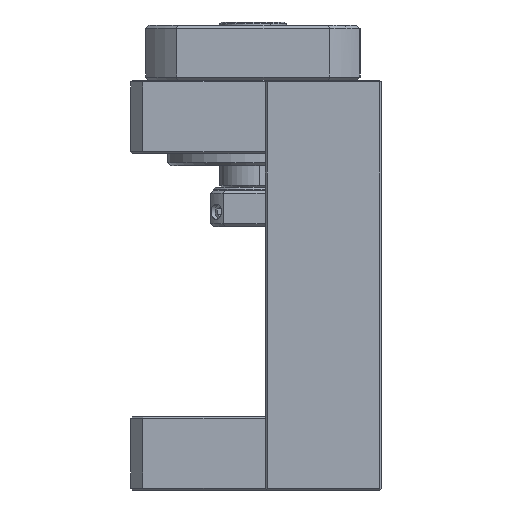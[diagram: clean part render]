
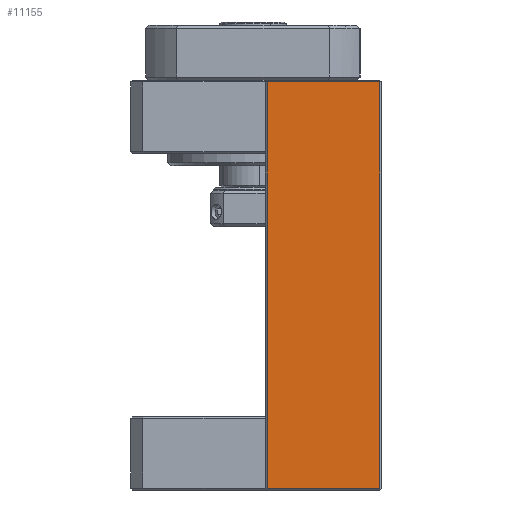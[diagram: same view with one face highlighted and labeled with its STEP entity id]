
A CAD part, left-side view. The second image highlights one B-rep face of the part: STEP entity #11155.
In plain terms, the highlighted planar face has unit normal (-1, 0, 0).
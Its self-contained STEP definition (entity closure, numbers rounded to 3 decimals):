
#3790 = CARTESIAN_POINT ( 'NONE',  ( 0., 0.3, -66.7 ) ) ;
#3791 = CARTESIAN_POINT ( 'NONE',  ( 0., 18.7, -66.7 ) ) ;
#3792 = DIRECTION ( 'NONE',  ( 0., -1., 0. ) ) ;
#3793 = VECTOR ( 'NONE', #3792, 1000. ) ;
#3794 = CARTESIAN_POINT ( 'NONE',  ( 0., 0., -66.7 ) ) ;
#3795 = LINE ( 'NONE', #3794, #3793 ) ;
#3831 = DIRECTION ( 'NONE',  ( 0., 0., 1. ) ) ;
#3832 = VECTOR ( 'NONE', #3831, 1000. ) ;
#3833 = CARTESIAN_POINT ( 'NONE',  ( 0., 0.3, -67. ) ) ;
#3834 = LINE ( 'NONE', #3833, #3832 ) ;
#3884 = DIRECTION ( 'NONE',  ( 0., 0., -1. ) ) ;
#3885 = VECTOR ( 'NONE', #3884, 1000. ) ;
#3886 = CARTESIAN_POINT ( 'NONE',  ( 0., 18.7, -67. ) ) ;
#3887 = LINE ( 'NONE', #3886, #3885 ) ;
#3888 = CARTESIAN_POINT ( 'NONE',  ( 0., 18.7, -0.3 ) ) ;
#3889 = DIRECTION ( 'NONE',  ( 0., 1., 0. ) ) ;
#3890 = VECTOR ( 'NONE', #3889, 1000. ) ;
#3891 = CARTESIAN_POINT ( 'NONE',  ( 0., -38.832, -0.3 ) ) ;
#3892 = LINE ( 'NONE', #3891, #3890 ) ;
#3893 = CARTESIAN_POINT ( 'NONE',  ( 0., 0.3, -0.3 ) ) ;
#3910 = DIRECTION ( 'NONE',  ( 0., -1., 0. ) ) ;
#3911 = DIRECTION ( 'NONE',  ( -1., 0., 0. ) ) ;
#3912 = CARTESIAN_POINT ( 'NONE',  ( 0., -38.832, -67. ) ) ;
#3913 = AXIS2_PLACEMENT_3D ( 'NONE', #3912, #3911, #3910 ) ;
#3914 = PLANE ( 'NONE',  #3913 ) ;
#3915 = FACE_OUTER_BOUND ( 'NONE', #11156, .T. ) ;
#11075 = EDGE_CURVE ( 'NONE', #11076, #11077, #3795, .T. ) ;
#11076 = VERTEX_POINT ( 'NONE', #3791 ) ;
#11077 = VERTEX_POINT ( 'NONE', #3790 ) ;
#11130 = ORIENTED_EDGE ( 'NONE', *, *, #11131, .T. ) ;
#11131 = EDGE_CURVE ( 'NONE', #11077, #11132, #3834, .T. ) ;
#11132 = VERTEX_POINT ( 'NONE', #3893 ) ;
#11133 = ORIENTED_EDGE ( 'NONE', *, *, #11134, .T. ) ;
#11134 = EDGE_CURVE ( 'NONE', #11132, #11135, #3892, .T. ) ;
#11135 = VERTEX_POINT ( 'NONE', #3888 ) ;
#11136 = ORIENTED_EDGE ( 'NONE', *, *, #11137, .T. ) ;
#11137 = EDGE_CURVE ( 'NONE', #11135, #11076, #3887, .T. ) ;
#11155 = ADVANCED_FACE ( 'NONE', ( #3915 ), #3914, .T. ) ;
#11156 = EDGE_LOOP ( 'NONE', ( #11157, #11130, #11133, #11136 ) ) ;
#11157 = ORIENTED_EDGE ( 'NONE', *, *, #11075, .T. ) ;
